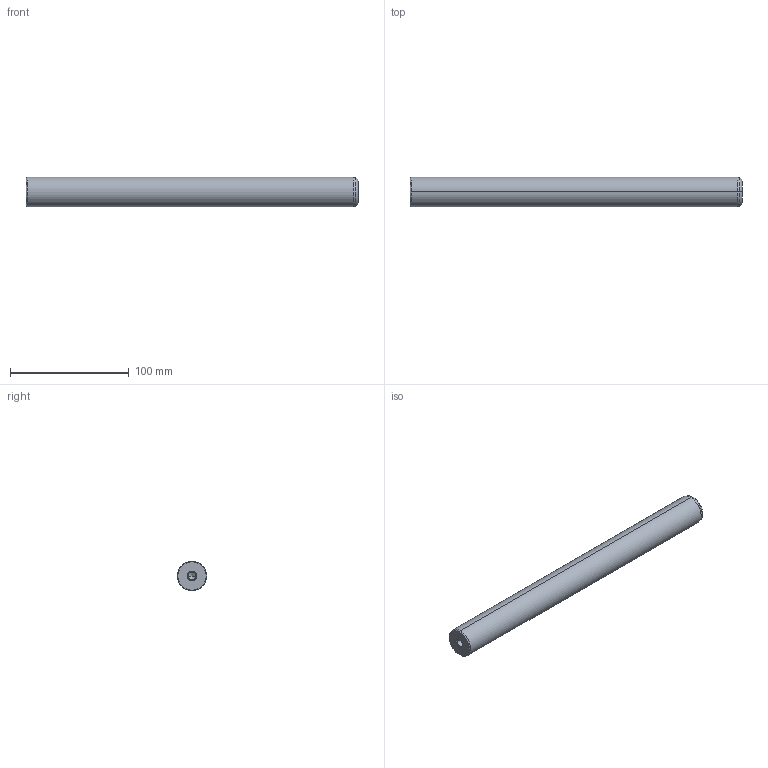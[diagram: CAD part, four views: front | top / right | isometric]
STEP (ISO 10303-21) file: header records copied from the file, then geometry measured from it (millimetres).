
FILE_DESCRIPTION(('CATIA V5 STEP Exchange'),'2;1');
FILE_NAME('C:\Users\Utente\Desktop\IO LAVORO\3D X SITO CF\X SITO\720\720-25x280.stp','2021-01-01T12:39:28+00:00',('none'),('none'),'CATIA Version 5 Release 20 GA (IN-10)','CATIA V5 STEP AP203','none');
FILE_SCHEMA(('CONFIG_CONTROL_DESIGN'));
Length unit declared in the file: millimetre
Products named in the file (1): 720-25x280
Bounding box: 280 x 25 x 25 mm (x, y, z)
Volume: 135468 mm3; surface area: 23801.8 mm2
Topology: 1 solids, 1 shells, 22 faces, 56 edges, 34 vertices
Faces by surface type: cone 12, cylinder 6, plane 2, torus 2
Entity records: 755 total; most frequent: CARTESIAN_POINT 216, ORIENTED_EDGE 104, DIRECTION 89, EDGE_CURVE 52, AXIS2_PLACEMENT_3D 50, VERTEX_POINT 34, CIRCLE 27, EDGE_LOOP 24
